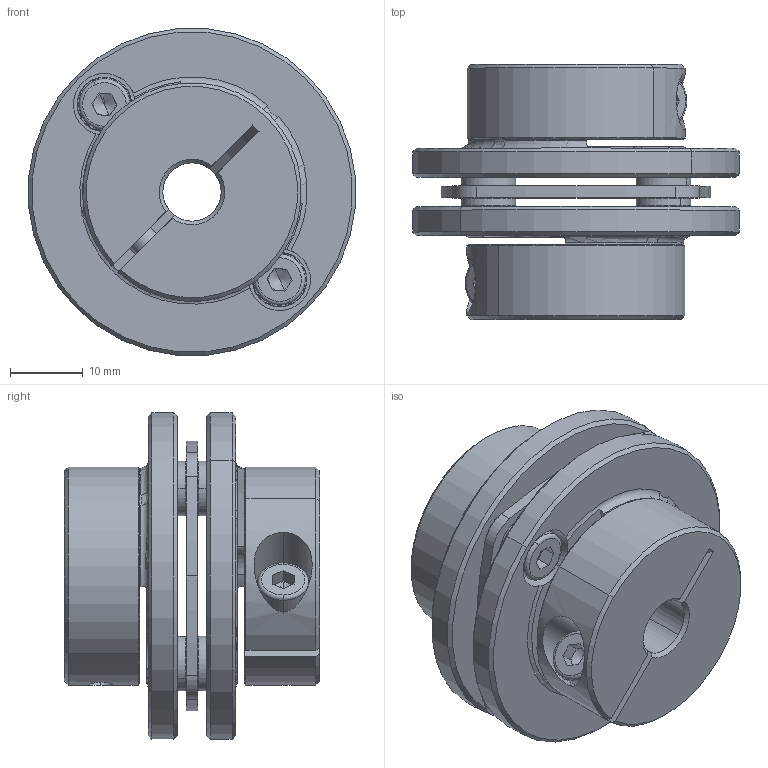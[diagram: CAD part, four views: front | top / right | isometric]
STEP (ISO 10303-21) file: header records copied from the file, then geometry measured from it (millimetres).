
FILE_DESCRIPTION (( 'STEP AP203' ), '1' );
FILE_NAME ('LE1-B-D45L35-8-8.STEP', '2021-11-01T03:03:25', ( '' ), ( '' ), 'SwSTEP 2.0', 'SolidWorks 2018', '' );
FILE_SCHEMA (( 'CONFIG_CONTROL_DESIGN' ));
Length unit declared in the file: millimetre
Products named in the file (1): LE1-B-D45L35-8-8
Bounding box: 44.83 x 35 x 44.83 mm (x, y, z)
Volume: 26863.2 mm3; surface area: 15979.7 mm2
Topology: 1 solids, 13 shells, 405 faces, 991 edges, 614 vertices
Faces by surface type: plane 136, cylinder 135, cone 114, torus 18, bspline 2
Entity records: 12432 total; most frequent: CARTESIAN_POINT 2479, DIRECTION 2247, ORIENTED_EDGE 1958, EDGE_CURVE 979, AXIS2_PLACEMENT_3D 914, VERTEX_POINT 614, CIRCLE 510, EDGE_LOOP 469
